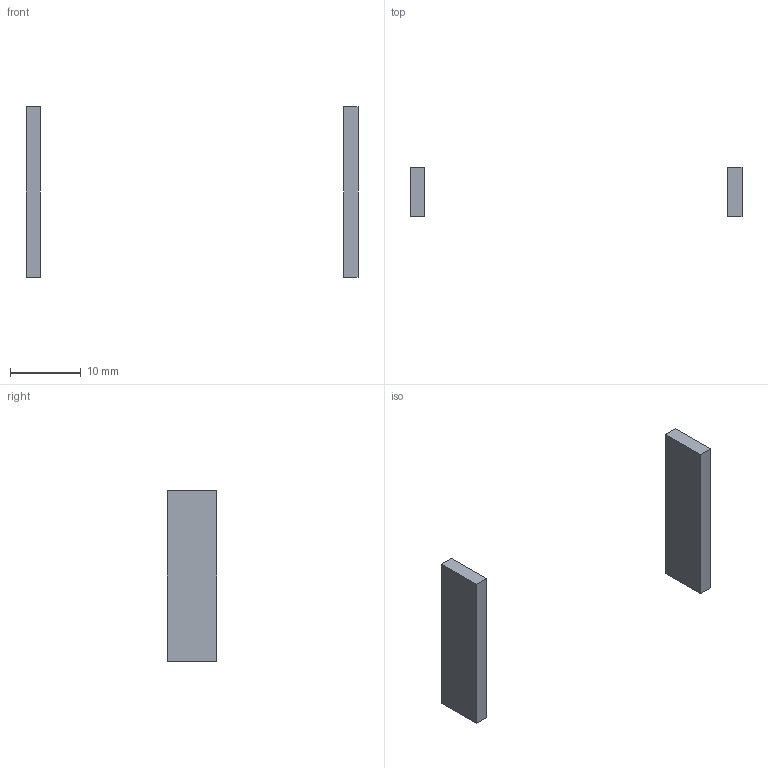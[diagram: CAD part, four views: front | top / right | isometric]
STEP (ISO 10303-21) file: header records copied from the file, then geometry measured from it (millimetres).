
FILE_DESCRIPTION(('FreeCAD Model'),'2;1');
FILE_NAME('Open CASCADE Shape Model','2026-10-31T13:49:49',('FreeCAD'),( 'FreeCAD'),'Open CASCADE STEP processor 7.8','FreeCAD','Unknown');
FILE_SCHEMA(('AUTOMOTIVE_DESIGN { 1 0 10303 214 1 1 1 1 }'));
Length unit declared in the file: millimetre
Products named in the file (1): Open CASCADE STEP translator 7.8 27
Bounding box: 46.8 x 7 x 24 mm (x, y, z)
Volume: 672 mm3; surface area: 920 mm2
Topology: 2 solids, 2 shells, 12 faces, 24 edges, 16 vertices
Faces by surface type: plane 12
Entity records: 316 total; most frequent: CARTESIAN_POINT 53, DIRECTION 50, ORIENTED_EDGE 48, EDGE_CURVE 24, LINE 24, VECTOR 24, VERTEX_POINT 16, AXIS2_PLACEMENT_3D 13
